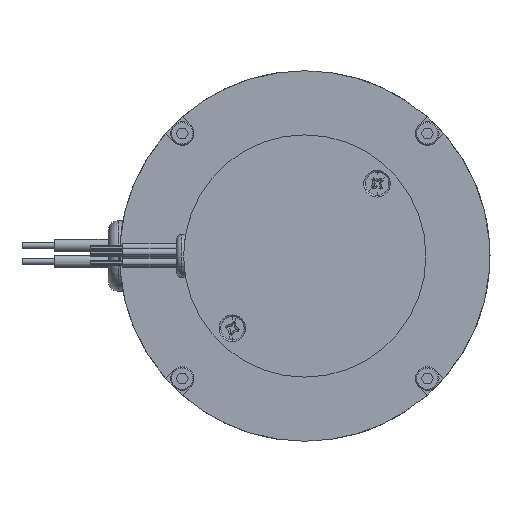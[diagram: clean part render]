
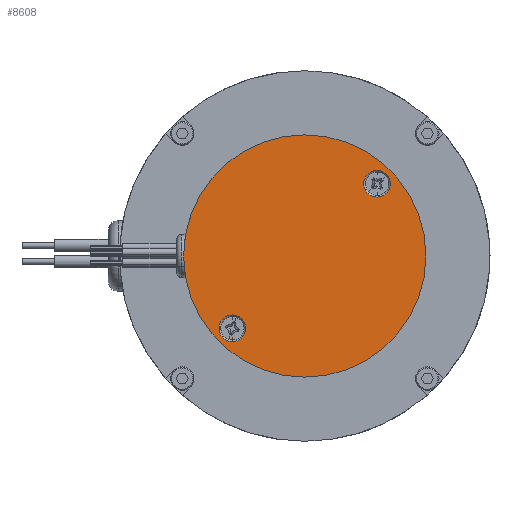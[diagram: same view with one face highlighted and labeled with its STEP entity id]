
A CAD part, left-side view. The second image highlights one B-rep face of the part: STEP entity #8608.
In plain terms, the highlighted planar face has unit normal (-1, 0, 0).
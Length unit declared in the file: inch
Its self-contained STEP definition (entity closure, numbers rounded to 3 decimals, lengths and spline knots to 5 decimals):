
#23 = CARTESIAN_POINT ( 'NONE',  ( -3.72874, 4.73184, 4.42972 ) ) ;
#86 = DIRECTION ( 'NONE',  ( 1., 0., 0. ) ) ;
#942 = AXIS2_PLACEMENT_3D ( 'NONE', #23, #2224, #5669 ) ;
#1127 = ORIENTED_EDGE ( 'NONE', *, *, #8820, .F. ) ;
#1154 = DIRECTION ( 'NONE',  ( 1., 0., 0. ) ) ;
#1240 = VERTEX_POINT ( 'NONE', #11306 ) ;
#1665 = CIRCLE ( 'NONE', #14313, 0.12402 ) ;
#1755 = PLANE ( 'NONE',  #4746 ) ;
#1829 = EDGE_CURVE ( 'NONE', #1240, #2165, #14016, .T. ) ;
#1887 = CIRCLE ( 'NONE', #12765, 0.12402 ) ;
#2141 = AXIS2_PLACEMENT_3D ( 'NONE', #13872, #1154, #10309 ) ;
#2165 = VERTEX_POINT ( 'NONE', #13131 ) ;
#2224 = DIRECTION ( 'NONE',  ( -1., 0., 0. ) ) ;
#2427 = DIRECTION ( 'NONE',  ( 0., 0., 1. ) ) ;
#2475 = DIRECTION ( 'NONE',  ( -1., 0., 0. ) ) ;
#3282 = EDGE_CURVE ( 'NONE', #2165, #1240, #1665, .T. ) ;
#3337 = DIRECTION ( 'NONE',  ( -1., 0., 0. ) ) ;
#3408 = CIRCLE ( 'NONE', #2141, 1.125 ) ;
#3532 = DIRECTION ( 'NONE',  ( 0., 0., -1. ) ) ;
#3706 = CARTESIAN_POINT ( 'NONE',  ( -3.72874, 4.06009, 6.22647 ) ) ;
#3912 = VERTEX_POINT ( 'NONE', #8253 ) ;
#4428 = DIRECTION ( 'NONE',  ( 0., 0., 1. ) ) ;
#4746 = AXIS2_PLACEMENT_3D ( 'NONE', #10848, #12000, #5196 ) ;
#5196 = DIRECTION ( 'NONE',  ( 0., 0., -1. ) ) ;
#5292 = FACE_OUTER_BOUND ( 'NONE', #11663, .T. ) ;
#5358 = AXIS2_PLACEMENT_3D ( 'NONE', #9258, #2475, #2427 ) ;
#5669 = DIRECTION ( 'NONE',  ( 0., 0., 1. ) ) ;
#5671 = EDGE_LOOP ( 'NONE', ( #10135, #12263 ) ) ;
#5968 = EDGE_CURVE ( 'NONE', #8344, #11734, #3408, .T. ) ;
#6142 = CARTESIAN_POINT ( 'NONE',  ( -3.72874, 3.38834, 5.6492 ) ) ;
#6436 = ORIENTED_EDGE ( 'NONE', *, *, #10849, .F. ) ;
#6961 = EDGE_LOOP ( 'NONE', ( #7845, #6436 ) ) ;
#7069 = DIRECTION ( 'NONE',  ( 0., 0., 1. ) ) ;
#7778 = CIRCLE ( 'NONE', #8687, 1.125 ) ;
#7845 = ORIENTED_EDGE ( 'NONE', *, *, #8938, .F. ) ;
#8175 = CARTESIAN_POINT ( 'NONE',  ( -3.72874, 3.38834, 5.77322 ) ) ;
#8253 = CARTESIAN_POINT ( 'NONE',  ( -3.72874, 3.38834, 5.89724 ) ) ;
#8344 = VERTEX_POINT ( 'NONE', #3706 ) ;
#8451 = VERTEX_POINT ( 'NONE', #6142 ) ;
#8608 = ADVANCED_FACE ( 'NONE', ( #14372, #11339, #5292 ), #1755, .F. ) ;
#8687 = AXIS2_PLACEMENT_3D ( 'NONE', #10201, #86, #3532 ) ;
#8820 = EDGE_CURVE ( 'NONE', #11734, #8344, #7778, .T. ) ;
#8938 = EDGE_CURVE ( 'NONE', #3912, #8451, #1887, .T. ) ;
#8972 = CARTESIAN_POINT ( 'NONE',  ( -3.72874, 4.73184, 4.42972 ) ) ;
#9258 = CARTESIAN_POINT ( 'NONE',  ( -3.72874, 3.38834, 5.77322 ) ) ;
#10135 = ORIENTED_EDGE ( 'NONE', *, *, #3282, .F. ) ;
#10201 = CARTESIAN_POINT ( 'NONE',  ( -3.72874, 4.06009, 5.10147 ) ) ;
#10309 = DIRECTION ( 'NONE',  ( 0., 0., -1. ) ) ;
#10445 = DIRECTION ( 'NONE',  ( -1., 0., 0. ) ) ;
#10737 = CARTESIAN_POINT ( 'NONE',  ( -3.72874, 4.06009, 3.97647 ) ) ;
#10848 = CARTESIAN_POINT ( 'NONE',  ( -3.72874, 4.06009, 5.10147 ) ) ;
#10849 = EDGE_CURVE ( 'NONE', #8451, #3912, #12716, .T. ) ;
#11306 = CARTESIAN_POINT ( 'NONE',  ( -3.72874, 4.73184, 4.3057 ) ) ;
#11339 = FACE_BOUND ( 'NONE', #6961, .T. ) ;
#11663 = EDGE_LOOP ( 'NONE', ( #1127, #12097 ) ) ;
#11734 = VERTEX_POINT ( 'NONE', #10737 ) ;
#12000 = DIRECTION ( 'NONE',  ( 1., 0., 0. ) ) ;
#12097 = ORIENTED_EDGE ( 'NONE', *, *, #5968, .F. ) ;
#12263 = ORIENTED_EDGE ( 'NONE', *, *, #1829, .F. ) ;
#12716 = CIRCLE ( 'NONE', #5358, 0.12402 ) ;
#12765 = AXIS2_PLACEMENT_3D ( 'NONE', #8175, #10445, #7069 ) ;
#13131 = CARTESIAN_POINT ( 'NONE',  ( -3.72874, 4.73184, 4.55373 ) ) ;
#13872 = CARTESIAN_POINT ( 'NONE',  ( -3.72874, 4.06009, 5.10147 ) ) ;
#14016 = CIRCLE ( 'NONE', #942, 0.12402 ) ;
#14313 = AXIS2_PLACEMENT_3D ( 'NONE', #8972, #3337, #4428 ) ;
#14372 = FACE_BOUND ( 'NONE', #5671, .T. ) ;
